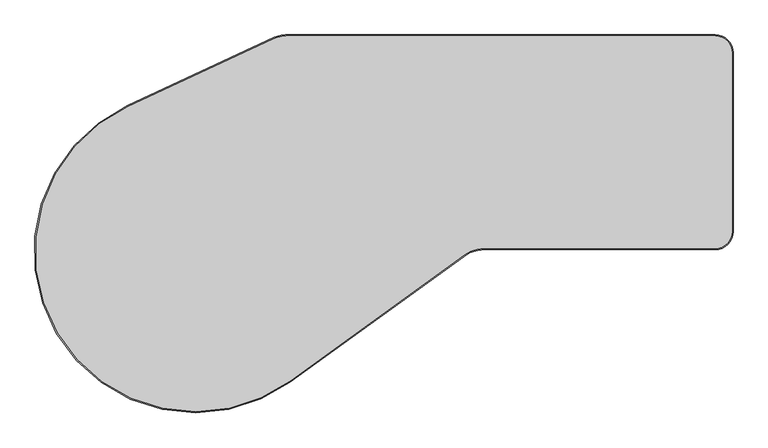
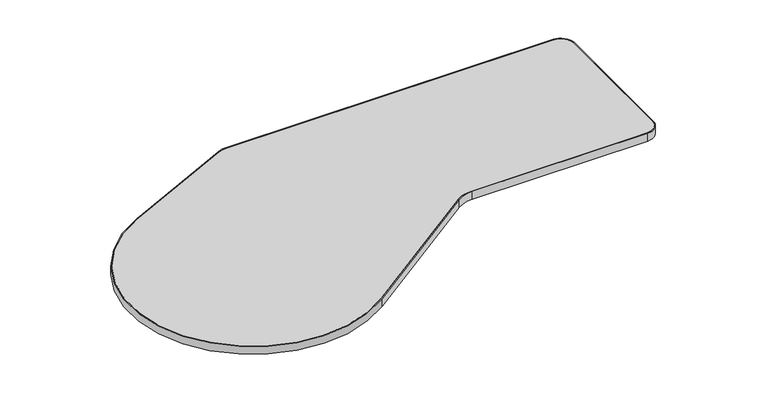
"""IFC4 building model written with IfcOpenShell, lengths in millimetres: furniture geometry, Steelcase - Answer Solution - Universal Table - Bubble Jetty - 3mm Edge : 24D x 78W - Left."""

from ifc_helpers import new_model, si_unit, point, frame, frame_2d, origin, place, context, project, spatial, polyline, circle_curve, trimmed, segment, composite_curve, outline, extrude, source, transform, mapped, element, save


def furniture_958205e1(model_context):
    return source(origin(), model_context, "Body", "SweptSolid", [
        extrude(outline(composite_curve([segment(polyline([(-1269.9998062, 0.0), (-50.7998062, 0.0)]), True, "CONTINUOUS"), segment(trimmed(circle_curve(frame_2d((-50.7998062, -50.7998062)), 50.7998062), [point((-50.7998062, 0.0))], [point((0.0, -50.7998062))], False, "CARTESIAN"), True, "CONTINUOUS"), segment(polyline([(0.0, -50.7998062), (0.0, -558.8001938)]), True, "CONTINUOUS"), segment(trimmed(circle_curve(frame_2d((-50.7998062, -558.8001938)), 50.7998062), [point((0.0, -558.8001938))], [point((-50.7998062, -609.6))], False, "CARTESIAN"), True, "CONTINUOUS"), segment(polyline([(-50.7998062, -609.6), (-703.3269088, -609.6)]), True, "CONTINUOUS"), segment(trimmed(circle_curve(frame_2d((-703.3269088, -711.1987757)), 101.5987757), [point((-703.3269088, -609.6))], [point((-762.9086655, -628.9046356))], True, "CARTESIAN"), True, "CONTINUOUS"), segment(polyline([(-762.9086655, -628.9046356), (-1256.679456, -986.3994838)]), True, "CONTINUOUS"), segment(trimmed(circle_curve(frame_2d((-1524.3638186, -615.7059579)), 457.2402084), [point((-1256.679456, -986.3994838))], [point((-1717.6019601, -201.3056335))], False, "CARTESIAN"), True, "CONTINUOUS"), segment(polyline([(-1717.6019601, -201.3056335), (-1301.2106918, -7.1390991)]), True, "CONTINUOUS"), segment(trimmed(circle_curve(frame_2d((-1269.9998062, -71.7938006)), 71.7938006), [point((-1301.2106918, -7.1390991))], [point((-1269.9998062, 0.0))], False, "CARTESIAN"), True, "CONTINUOUS")], self_intersect=False), holes=[composite_curve([segment(polyline([(-50.7998062, -3.0474884), (-1266.9225534, -3.0474884)]), True, "CONTINUOUS"), segment(trimmed(circle_curve(frame_2d((-1266.9225534, -85.5974884)), 82.55), [point((-1266.9225534, -3.0474884))], [point((-1301.8097052, -10.7817873))], True, "CARTESIAN"), True, "CONTINUOUS"), segment(polyline([(-1301.8097052, -10.7817873), (-1715.9336334, -203.8910431)]), True, "CONTINUOUS"), segment(trimmed(circle_curve(frame_2d((-1524.0005604, -615.4926403)), 454.1521544), [point((-1715.9336334, -203.8910431))], [point((-1257.666808, -983.3520043))], True, "CARTESIAN"), True, "CONTINUOUS"), segment(polyline([(-1257.666808, -983.3520043), (-762.2298374, -624.6508256)]), True, "CONTINUOUS"), segment(trimmed(circle_curve(frame_2d((-706.3712673, -701.8025116)), 95.25), [point((-762.2298374, -624.6508256))], [point((-706.3712673, -606.5525116))], False, "CARTESIAN"), True, "CONTINUOUS"), segment(polyline([(-706.3712673, -606.5525116), (-50.8009689, -606.5525116)]), True, "CONTINUOUS"), segment(trimmed(circle_curve(frame_2d((-50.8009689, -558.7996124)), 47.7528992), [point((-50.8009689, -606.5525116))], [point((-3.0480698, -558.7996124))], True, "CARTESIAN"), True, "CONTINUOUS"), segment(polyline([(-3.0480698, -558.7996124), (-3.0480698, -50.7992249)]), True, "CONTINUOUS"), segment(trimmed(circle_curve(frame_2d((-50.7998062, -50.7992249)), 47.7517365), [point((-3.0480698, -50.7992249))], [point((-50.7998062, -3.0474884))], True, "CARTESIAN"), True, "CONTINUOUS")], self_intersect=False)]), frame((0.0, 0.0, 668.274), z_axis=(0.0, 0.0, 1.0), x_axis=(1.0, 0.0, 0.0)), (0.0, 0.0, 1.0), 30.0990349),
        extrude(outline(composite_curve([segment(trimmed(circle_curve(frame_2d((-50.8009689, -558.7996124)), 47.7528992), [point((-3.0480698, -558.7996124))], [point((-50.8009689, -606.5525116))], False, "CARTESIAN"), True, "CONTINUOUS"), segment(polyline([(-50.8009689, -606.5525116), (-706.3712673, -606.5525116)]), True, "CONTINUOUS"), segment(trimmed(circle_curve(frame_2d((-706.3712673, -701.8025116)), 95.25), [point((-706.3712673, -606.5525116))], [point((-762.2298374, -624.6508256))], True, "CARTESIAN"), True, "CONTINUOUS"), segment(polyline([(-762.2298374, -624.6508256), (-1257.666808, -983.3520043)]), True, "CONTINUOUS"), segment(trimmed(circle_curve(frame_2d((-1524.0005604, -615.4926403)), 454.1521544), [point((-1257.666808, -983.3520043))], [point((-1715.9336334, -203.8910431))], False, "CARTESIAN"), True, "CONTINUOUS"), segment(polyline([(-1715.9336334, -203.8910431), (-1301.8097052, -10.7817873)]), True, "CONTINUOUS"), segment(trimmed(circle_curve(frame_2d((-1266.9225534, -85.5974884)), 82.55), [point((-1301.8097052, -10.7817873))], [point((-1266.9225534, -3.0474884))], False, "CARTESIAN"), True, "CONTINUOUS"), segment(polyline([(-1266.9225534, -3.0474884), (-50.7998062, -3.0474884)]), True, "CONTINUOUS"), segment(trimmed(circle_curve(frame_2d((-50.7998062, -50.7992249)), 47.7517365), [point((-50.7998062, -3.0474884))], [point((-3.0480698, -50.7992249))], False, "CARTESIAN"), True, "CONTINUOUS"), segment(polyline([(-3.0480698, -50.7992249), (-3.0480698, -558.7996124)]), True, "CONTINUOUS")], self_intersect=False)), frame((0.0, 0.0, 668.274), z_axis=(0.0, 0.0, 1.0), x_axis=(1.0, 0.0, 0.0)), (0.0, 0.0, 1.0), 30.0990349),
    ])


if __name__ == "__main__":
    model = new_model("IFC4")
    model_context = context("Model", 3, world=origin())
    ifc_project = project(units=[si_unit("LENGTHUNIT", "METRE", prefix="MILLI")], contexts=[model_context])
    site = spatial("IfcSite", under=ifc_project)
    building = spatial("IfcBuilding", under=site)
    placement = place(None, origin())
    furniture_shape = furniture_958205e1(model_context)
    element("IfcFurniture", 1, ObjectType="Steelcase - Answer Solution - Universal Table - Bubble Jetty - 3mm Edge : 24D x 78W - Left", at=placement, inside=building, context=model_context, shape_type="MappedRepresentation", body=[
        mapped(furniture_shape, transform((0.0, 0.0, 0.0), x_axis=(1.0, 0.0, 0.0), y_axis=(0.0, 1.0, 0.0), z_axis=(0.0, 0.0, 1.0))),
    ])
    save(model, "model.ifc")
